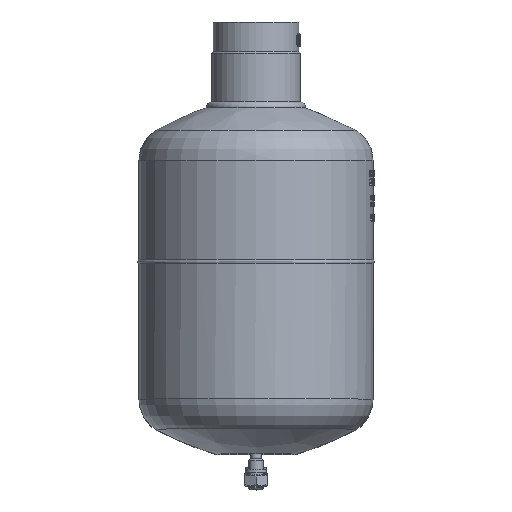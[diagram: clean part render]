
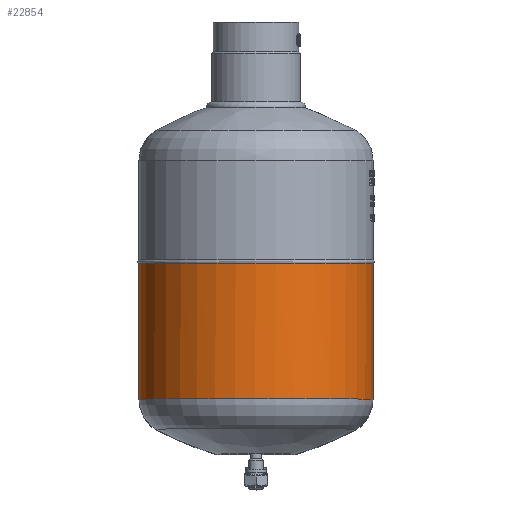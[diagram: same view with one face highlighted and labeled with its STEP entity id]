
A CAD part, top view. The second image highlights one B-rep face of the part: STEP entity #22854.
In plain terms, the highlighted cylindrical face has radius 99 mm (diameter 198 mm), a full revolution.
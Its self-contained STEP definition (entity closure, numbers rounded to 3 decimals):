
#612=FACE_BOUND('',#4744,.T.);
#1520=B_SPLINE_CURVE_WITH_KNOTS('',3,(#48962,#48963,#48964,#48965,#48966,
#48967,#48968,#48969,#48970,#48971,#48972,#48973,#48974,#48975,#48976,#48977,
#48978,#48979),.UNSPECIFIED.,.F.,.F.,(4,2,2,2,2,2,2,2,4),(6.898,
7.242,7.587,7.932,8.277,8.622,
8.967,9.312,9.371),.UNSPECIFIED.);
#1521=B_SPLINE_CURVE_WITH_KNOTS('',3,(#48980,#48981,#48982,#48983,#48984,
#48985,#48986,#48987,#48988,#48989,#48990,#48991,#48992,#48993,#48994,#48995,
#48996,#48997,#48998),.UNSPECIFIED.,.F.,.F.,(4,2,2,2,3,2,2,2,4),(4.424,
4.483,4.828,5.173,5.518,5.863,
6.208,6.553,6.898),.UNSPECIFIED.);
#1647=CYLINDRICAL_SURFACE('',#24562,99.);
#2087=CIRCLE('',#24543,99.);
#2091=CIRCLE('',#24550,99.);
#3350=FACE_OUTER_BOUND('',#4743,.T.);
#4743=EDGE_LOOP('',(#20748,#20749,#20750));
#4744=EDGE_LOOP('',(#20751));
#10685=VERTEX_POINT('',#48904);
#10686=VERTEX_POINT('',#48919);
#10690=VERTEX_POINT('',#48944);
#10695=VERTEX_POINT('',#48961);
#14064=EDGE_CURVE('',#10685,#10686,#2087,.T.);
#14069=EDGE_CURVE('',#10690,#10690,#2091,.T.);
#14074=EDGE_CURVE('',#10695,#10686,#1520,.T.);
#14075=EDGE_CURVE('',#10685,#10695,#1521,.T.);
#20748=ORIENTED_EDGE('',*,*,#14074,.T.);
#20749=ORIENTED_EDGE('',*,*,#14064,.F.);
#20750=ORIENTED_EDGE('',*,*,#14075,.T.);
#20751=ORIENTED_EDGE('',*,*,#14069,.T.);
#22854=ADVANCED_FACE('',(#3350,#612),#1647,.T.);
#24543=AXIS2_PLACEMENT_3D('',#48920,#29507,#29508);
#24550=AXIS2_PLACEMENT_3D('',#48945,#29521,#29522);
#24562=AXIS2_PLACEMENT_3D('',#48999,#29545,#29546);
#29507=DIRECTION('center_axis',(0.,-1.,0.));
#29508=DIRECTION('ref_axis',(-1.,0.,0.));
#29521=DIRECTION('center_axis',(0.,-1.,0.));
#29522=DIRECTION('ref_axis',(-1.,0.,0.));
#29545=DIRECTION('center_axis',(0.,-1.,0.));
#29546=DIRECTION('ref_axis',(-1.,0.,0.));
#48904=CARTESIAN_POINT('',(2.915,-215.249,157.499));
#48919=CARTESIAN_POINT('',(-2.915,-215.249,157.499));
#48920=CARTESIAN_POINT('Origin',(0.,-215.249,
256.456));
#48944=CARTESIAN_POINT('',(-99.,-100.575,256.456));
#48945=CARTESIAN_POINT('Origin',(0.,-100.575,
256.456));
#48961=CARTESIAN_POINT('',(0.,-197.425,157.456));
#48962=CARTESIAN_POINT('Ctrl Pts',(0.,-197.425,
157.456));
#48963=CARTESIAN_POINT('Ctrl Pts',(-1.15,-197.425,
157.456));
#48964=CARTESIAN_POINT('Ctrl Pts',(-2.375,-197.655,
157.479));
#48965=CARTESIAN_POINT('Ctrl Pts',(-4.63,-198.589,
157.558));
#48966=CARTESIAN_POINT('Ctrl Pts',(-5.658,-199.293,
157.615));
#48967=CARTESIAN_POINT('Ctrl Pts',(-7.282,-200.917,
157.721));
#48968=CARTESIAN_POINT('Ctrl Pts',(-7.986,-201.946,
157.778));
#48969=CARTESIAN_POINT('Ctrl Pts',(-8.92,-204.2,
157.858));
#48970=CARTESIAN_POINT('Ctrl Pts',(-9.15,-205.426,
157.88));
#48971=CARTESIAN_POINT('Ctrl Pts',(-9.15,-207.725,
157.88));
#48972=CARTESIAN_POINT('Ctrl Pts',(-8.92,-208.951,
157.858));
#48973=CARTESIAN_POINT('Ctrl Pts',(-7.986,-211.205,
157.778));
#48974=CARTESIAN_POINT('Ctrl Pts',(-7.282,-212.233,
157.721));
#48975=CARTESIAN_POINT('Ctrl Pts',(-5.658,-213.857,
157.615));
#48976=CARTESIAN_POINT('Ctrl Pts',(-4.63,-214.561,
157.558));
#48977=CARTESIAN_POINT('Ctrl Pts',(-3.309,-215.109,
157.512));
#48978=CARTESIAN_POINT('Ctrl Pts',(-3.113,-215.182,
157.505));
#48979=CARTESIAN_POINT('Ctrl Pts',(-2.915,-215.249,
157.499));
#48980=CARTESIAN_POINT('Ctrl Pts',(2.915,-215.249,157.499));
#48981=CARTESIAN_POINT('Ctrl Pts',(3.113,-215.182,157.505));
#48982=CARTESIAN_POINT('Ctrl Pts',(3.309,-215.109,157.512));
#48983=CARTESIAN_POINT('Ctrl Pts',(4.63,-214.561,157.558));
#48984=CARTESIAN_POINT('Ctrl Pts',(5.658,-213.857,157.615));
#48985=CARTESIAN_POINT('Ctrl Pts',(7.282,-212.233,157.721));
#48986=CARTESIAN_POINT('Ctrl Pts',(7.986,-211.205,157.778));
#48987=CARTESIAN_POINT('Ctrl Pts',(8.92,-208.951,157.858));
#48988=CARTESIAN_POINT('Ctrl Pts',(9.15,-207.725,157.88));
#48989=CARTESIAN_POINT('Ctrl Pts',(9.15,-206.575,157.88));
#48990=CARTESIAN_POINT('Ctrl Pts',(9.15,-205.426,157.88));
#48991=CARTESIAN_POINT('Ctrl Pts',(8.92,-204.2,157.858));
#48992=CARTESIAN_POINT('Ctrl Pts',(7.986,-201.946,157.778));
#48993=CARTESIAN_POINT('Ctrl Pts',(7.282,-200.917,157.721));
#48994=CARTESIAN_POINT('Ctrl Pts',(5.658,-199.293,157.615));
#48995=CARTESIAN_POINT('Ctrl Pts',(4.63,-198.589,157.558));
#48996=CARTESIAN_POINT('Ctrl Pts',(2.375,-197.655,157.479));
#48997=CARTESIAN_POINT('Ctrl Pts',(1.15,-197.425,157.456));
#48998=CARTESIAN_POINT('Ctrl Pts',(0.,-197.425,
157.456));
#48999=CARTESIAN_POINT('Origin',(0.,-157.912,
256.456));
